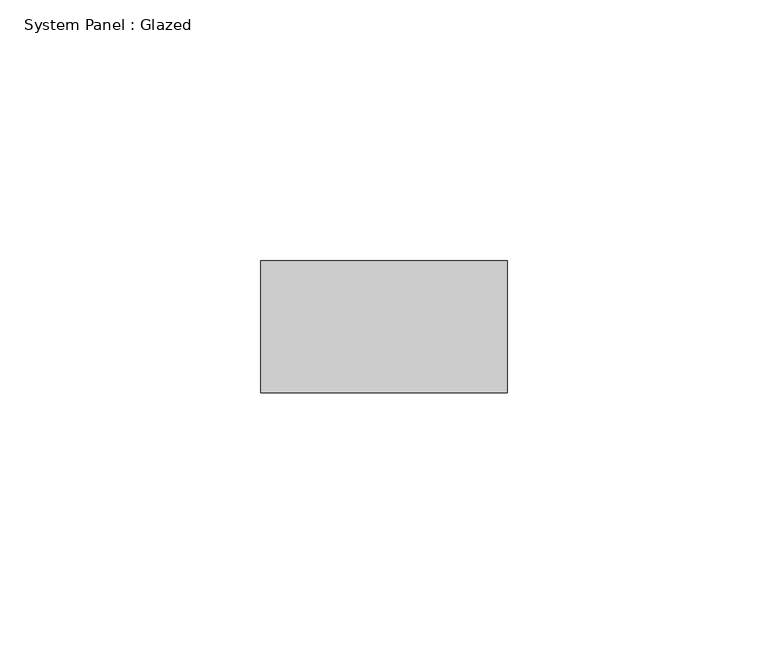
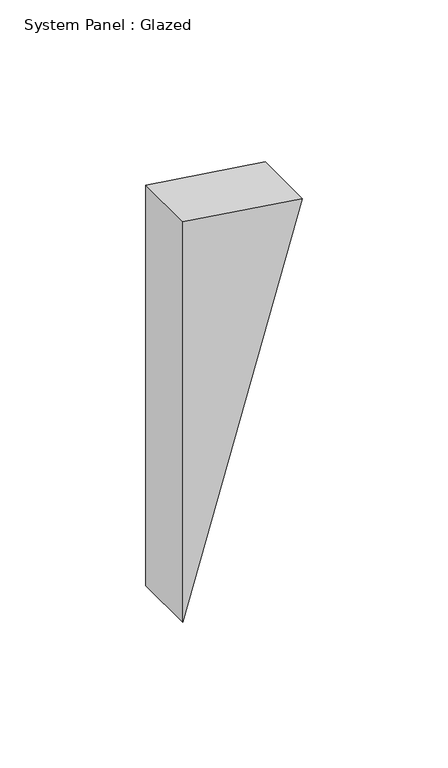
"""IFC4 building model written with IfcOpenShell, lengths in millimetres: plate geometry, System Panel : Glazed."""

from ifc_helpers import new_model, si_unit, frame, origin, place, context, project, spatial, polyline, outline, extrude, source, transform, mapped, element, save


def system_panel_glazed_02924753(model_context):
    return source(origin(), model_context, "Body", "SweptSolid", [
        extrude(outline(polyline([(0.0, -23.6846133), (161.0110452, 23.6846133), (167.8344431, -23.6843813), (0.0, -23.6846133)])), frame((0.0, 19.05, 0.0), z_axis=(0.0, 1.0, 0.0), x_axis=(0.0, 0.0, 1.0)), (0.0, 0.0, 1.0), 25.4),
    ])


if __name__ == "__main__":
    model = new_model("IFC4")
    model_context = context("Model", 3, world=origin())
    ifc_project = project(units=[si_unit("LENGTHUNIT", "METRE", prefix="MILLI")], contexts=[model_context])
    site = spatial("IfcSite", under=ifc_project)
    building = spatial("IfcBuilding", under=site)
    placement = place(None, origin())
    system_panel_glazed_shape = system_panel_glazed_02924753(model_context)
    element("IfcPlate", 1, ObjectType="System Panel : Glazed", at=placement, inside=building, context=model_context, shape_type="MappedRepresentation", body=[
        mapped(system_panel_glazed_shape, transform((0.0, 0.0, 0.0), x_axis=(1.0, 0.0, 0.0), y_axis=(0.0, 1.0, 0.0), z_axis=(0.0, 0.0, 1.0))),
    ])
    save(model, "model.ifc")
